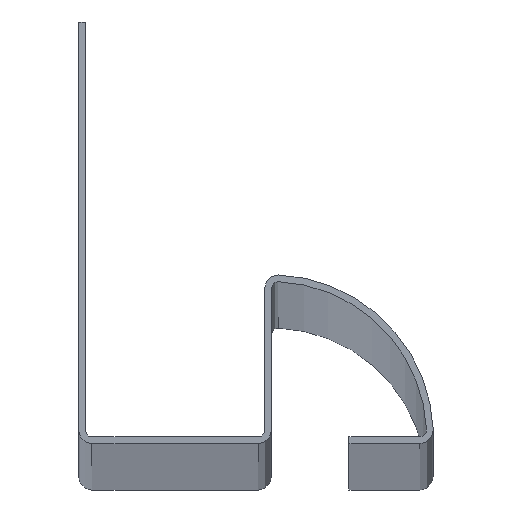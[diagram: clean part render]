
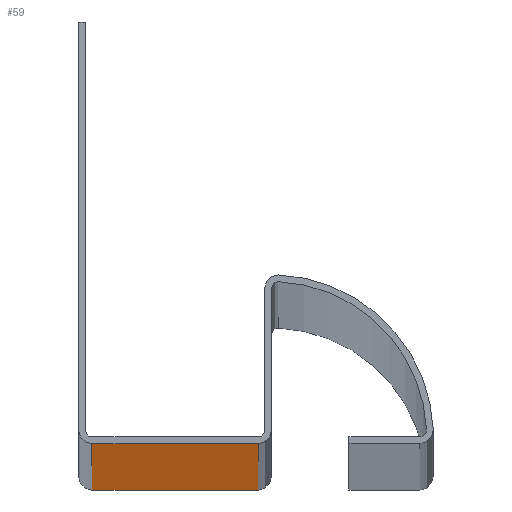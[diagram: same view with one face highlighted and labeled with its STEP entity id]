
A CAD part, top view. The second image highlights one B-rep face of the part: STEP entity #59.
In plain terms, the highlighted planar face has unit normal (0, -1, 0).
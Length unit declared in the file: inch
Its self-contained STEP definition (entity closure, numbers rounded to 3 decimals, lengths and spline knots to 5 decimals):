
#13 = EDGE_LOOP ( 'NONE', ( #116, #555, #626, #371 ) ) ;
#20 = CARTESIAN_POINT ( 'NONE',  ( 0.03937, 0., 78.74016 ) ) ;
#30 = PLANE ( 'NONE',  #609 ) ;
#34 = VECTOR ( 'NONE', #65, 39.37008 ) ;
#39 = VERTEX_POINT ( 'NONE', #221 ) ;
#59 = ADVANCED_FACE ( 'NONE', ( #175 ), #30, .F. ) ;
#63 = LINE ( 'NONE', #120, #34 ) ;
#65 = DIRECTION ( 'NONE',  ( 1., 0., 0. ) ) ;
#108 = CARTESIAN_POINT ( 'NONE',  ( 0.03937, 0., 78.74016 ) ) ;
#116 = ORIENTED_EDGE ( 'NONE', *, *, #262, .T. ) ;
#120 = CARTESIAN_POINT ( 'NONE',  ( 0.03937, 0., 0. ) ) ;
#175 = FACE_OUTER_BOUND ( 'NONE', #13, .T. ) ;
#194 = CARTESIAN_POINT ( 'NONE',  ( 0.03937, 0., 78.74016 ) ) ;
#203 = LINE ( 'NONE', #20, #537 ) ;
#221 = CARTESIAN_POINT ( 'NONE',  ( 0.53188, 0., 78.74016 ) ) ;
#262 = EDGE_CURVE ( 'NONE', #361, #851, #63, .T. ) ;
#283 = EDGE_CURVE ( 'NONE', #349, #361, #560, .T. ) ;
#304 = CARTESIAN_POINT ( 'NONE',  ( 0.53188, 0., 78.74016 ) ) ;
#322 = LINE ( 'NONE', #304, #472 ) ;
#339 = EDGE_CURVE ( 'NONE', #39, #851, #322, .T. ) ;
#349 = VERTEX_POINT ( 'NONE', #194 ) ;
#355 = VECTOR ( 'NONE', #453, 39.37008 ) ;
#361 = VERTEX_POINT ( 'NONE', #725 ) ;
#371 = ORIENTED_EDGE ( 'NONE', *, *, #283, .T. ) ;
#430 = EDGE_CURVE ( 'NONE', #349, #39, #203, .T. ) ;
#452 = CARTESIAN_POINT ( 'NONE',  ( 0.53188, 0., 0. ) ) ;
#453 = DIRECTION ( 'NONE',  ( 0., 0., -1. ) ) ;
#472 = VECTOR ( 'NONE', #514, 39.37008 ) ;
#510 = DIRECTION ( 'NONE',  ( 0., 0., 1. ) ) ;
#514 = DIRECTION ( 'NONE',  ( 0., 0., -1. ) ) ;
#537 = VECTOR ( 'NONE', #816, 39.37008 ) ;
#555 = ORIENTED_EDGE ( 'NONE', *, *, #339, .F. ) ;
#560 = LINE ( 'NONE', #647, #355 ) ;
#609 = AXIS2_PLACEMENT_3D ( 'NONE', #108, #709, #510 ) ;
#626 = ORIENTED_EDGE ( 'NONE', *, *, #430, .F. ) ;
#647 = CARTESIAN_POINT ( 'NONE',  ( 0.03937, 0., 78.74016 ) ) ;
#709 = DIRECTION ( 'NONE',  ( 0., 1., 0. ) ) ;
#725 = CARTESIAN_POINT ( 'NONE',  ( 0.03937, 0., 0. ) ) ;
#816 = DIRECTION ( 'NONE',  ( 1., 0., 0. ) ) ;
#851 = VERTEX_POINT ( 'NONE', #452 ) ;
